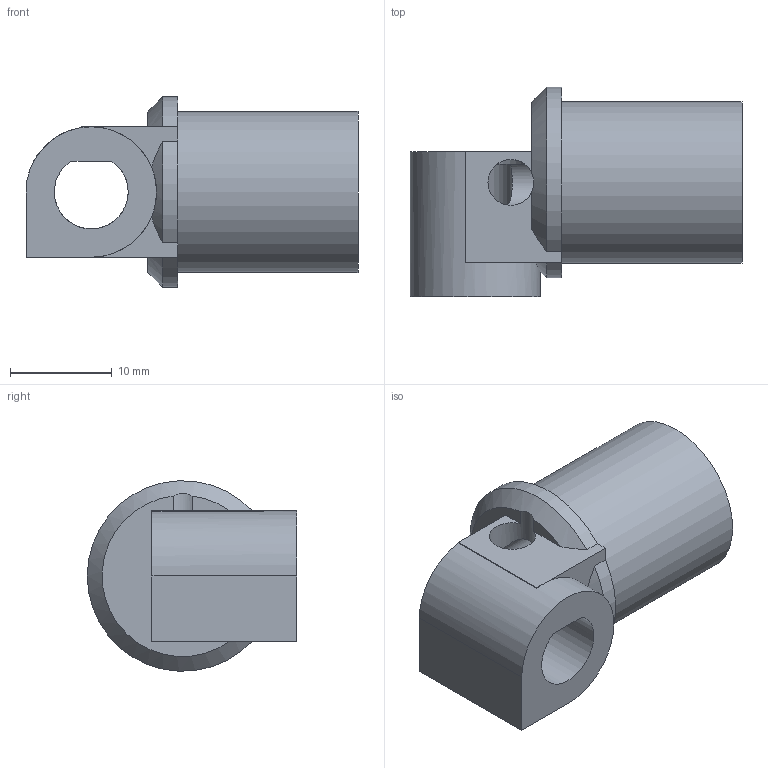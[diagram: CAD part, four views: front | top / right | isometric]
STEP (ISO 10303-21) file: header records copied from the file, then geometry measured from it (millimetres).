
FILE_DESCRIPTION(('Open CASCADE Model'),'2;1');
FILE_NAME('Open CASCADE Shape Model','2026-11-07T04:41:34',('Author'),( 'Open CASCADE'),'Open CASCADE STEP processor 8.0','build123d', 'Unknown');
FILE_SCHEMA(('AUTOMOTIVE_DESIGN { 1 0 10303 214 1 1 1 1 }'));
Length unit declared in the file: millimetre
Products named in the file (1): COMPOUND
Bounding box: 32.57 x 20.55 x 18.69 mm (x, y, z)
Volume: 3679.4 mm3; surface area: 3157.4 mm2
Topology: 1 solids, 1 shells, 34 faces, 99 edges, 66 vertices
Faces by surface type: plane 20, cylinder 12, cone 2
Full cylindrical faces by diameter (mm): 4.5 x2, 10.4 x1, 15.8 x1
Entity records: 3022 total; most frequent: CARTESIAN_POINT 1226, DIRECTION 283, ORIENTED_EDGE 198, PCURVE 198, DEFINITIONAL_REPRESENTATION 198, LINE 125, VECTOR 125, B_SPLINE_CURVE_WITH_KNOTS 106
